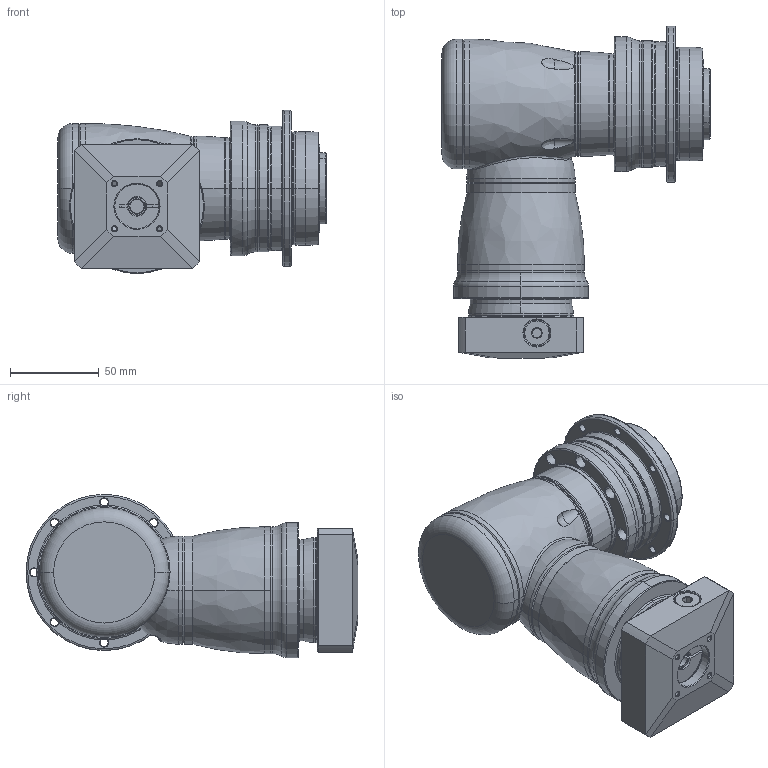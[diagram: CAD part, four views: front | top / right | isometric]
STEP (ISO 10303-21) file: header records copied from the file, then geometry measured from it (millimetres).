
FILE_DESCRIPTION((''),'2;1');
FILE_NAME('AHK064_2ST_8-P0409100101_ASM','2016-09-20T',('d01943'),(''),'PRO/ENGINEER BY PARAMETRIC TECHNOLOGY CORPORATION, 2008410','PRO/ENGINEER BY PARAMETRIC TECHNOLOGY CORPORATION, 2008410','');
FILE_SCHEMA(('CONFIG_CONTROL_DESIGN'));
Length unit declared in the file: millimetre
Products named in the file (12): P1008200002; P1802200101; P0278200003; P0359200003; P1315200001; P1007200001; P1318200001; P0503100005; P0912200001; P0409100101; 21711410012; AHK064_2ST_8-P0409100101_ASM
Assembly tree (11 placements, depth 2):
  AHK064_2ST_8-P0409100101_ASM
    P1008200002
    P1802200101
    P0278200003
    P0359200003
    P1315200001
    P1007200001
    P1318200001
    P0503100005
    P0912200001
    P0409100101
    21711410012
Bounding box: 151 x 187 x 92 mm (x, y, z)
Volume: 690549.8 mm3; surface area: 167237.7 mm2
Topology: 12 solids, 12 shells, 881 faces, 2063 edges, 1223 vertices
Faces by surface type: cylinder 302, cone 248, torus 134, plane 129, bspline 66, sphere 2
Entity records: 34623 total; most frequent: CARTESIAN_POINT 14238, DIRECTION 4551, ORIENTED_EDGE 4030, EDGE_CURVE 2015, AXIS2_PLACEMENT_3D 1962, VERTEX_POINT 1217, CIRCLE 1124, EDGE_LOOP 1014
